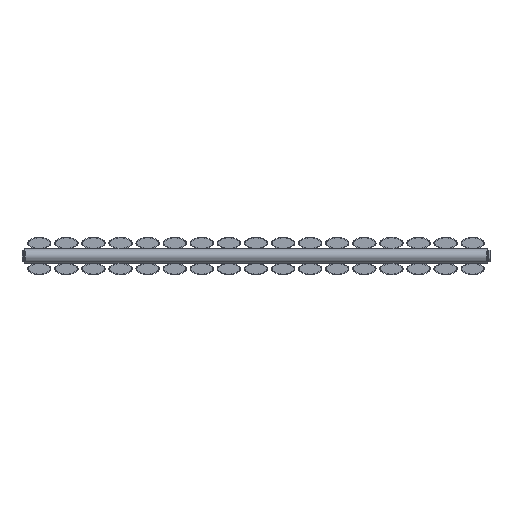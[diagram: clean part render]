
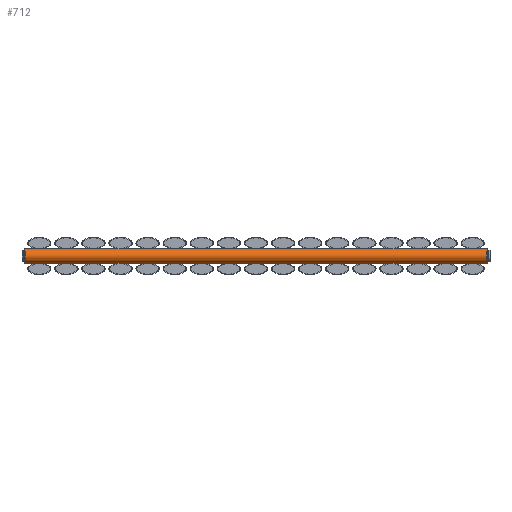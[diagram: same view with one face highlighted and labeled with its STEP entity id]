
A CAD part, left-side view. The second image highlights one B-rep face of the part: STEP entity #712.
In plain terms, the highlighted cylindrical face has radius 15 mm (diameter 30 mm), a full revolution.
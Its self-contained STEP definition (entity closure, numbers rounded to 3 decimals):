
#295=FACE_BOUND('',#344,.T.);
#307=FACE_OUTER_BOUND('',#343,.T.);
#343=EDGE_LOOP('',(#552));
#344=EDGE_LOOP('',(#553));
#391=CIRCLE('',#792,15.);
#392=CIRCLE('',#793,15.);
#426=VERTEX_POINT('',#1184);
#427=VERTEX_POINT('',#1186);
#479=EDGE_CURVE('',#426,#426,#391,.T.);
#480=EDGE_CURVE('',#427,#427,#392,.T.);
#552=ORIENTED_EDGE('',*,*,#479,.F.);
#553=ORIENTED_EDGE('',*,*,#480,.F.);
#698=CYLINDRICAL_SURFACE('',#791,15.);
#712=ADVANCED_FACE('',(#307,#295),#698,.T.);
#791=AXIS2_PLACEMENT_3D('',#1183,#913,#914);
#792=AXIS2_PLACEMENT_3D('',#1185,#915,#916);
#793=AXIS2_PLACEMENT_3D('',#1187,#917,#918);
#913=DIRECTION('center_axis',(0.,0.,1.));
#914=DIRECTION('ref_axis',(-1.,0.,0.));
#915=DIRECTION('center_axis',(0.,0.,1.));
#916=DIRECTION('ref_axis',(-1.,0.,0.));
#917=DIRECTION('center_axis',(0.,0.,-1.));
#918=DIRECTION('ref_axis',(-1.,0.,0.));
#1183=CARTESIAN_POINT('Origin',(0.,-15.,0.));
#1184=CARTESIAN_POINT('',(15.,-15.,990.));
#1185=CARTESIAN_POINT('Origin',(0.,-15.,990.));
#1186=CARTESIAN_POINT('',(15.,-15.,0.));
#1187=CARTESIAN_POINT('Origin',(0.,-15.,0.));
